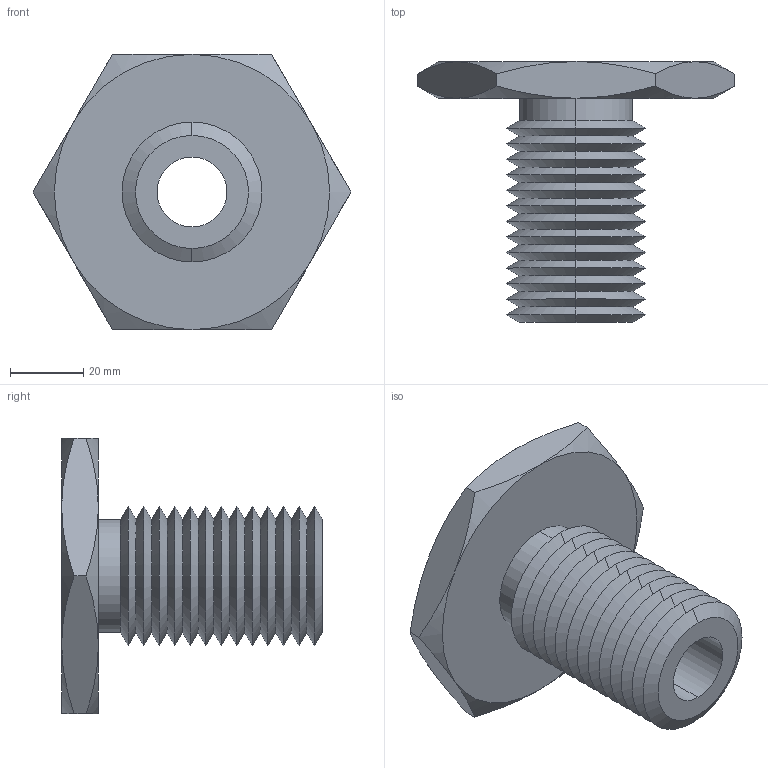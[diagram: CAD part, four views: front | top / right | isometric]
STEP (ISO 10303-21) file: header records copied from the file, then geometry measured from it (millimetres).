
FILE_DESCRIPTION (( 'STEP AP203' ), '1' );
FILE_NAME ('63302.W5150_0,75 UNC-10.step', '2013-12-08T11:46:48', ( 'User' ), ( '' ), 'SwSTEP 2.0', 'SolidWorks 2009', '' );
FILE_SCHEMA (( 'CONFIG_CONTROL_DESIGN' ));
Length unit declared in the file: millimetre
Products named in the file (1): 63302.W5150_0,75 UNC-10
Bounding box: 86.6 x 71 x 75 mm (x, y, z)
Volume: 83231.3 mm3; surface area: 27962 mm2
Topology: 1 solids, 1 shells, 79 faces, 162 edges, 86 vertices
Faces by surface type: cone 66, plane 9, cylinder 4
Entity records: 2239 total; most frequent: CARTESIAN_POINT 512, DIRECTION 372, ORIENTED_EDGE 324, EDGE_CURVE 162, AXIS2_PLACEMENT_3D 154, VERTEX_POINT 86, EDGE_LOOP 82, ADVANCED_FACE 79
